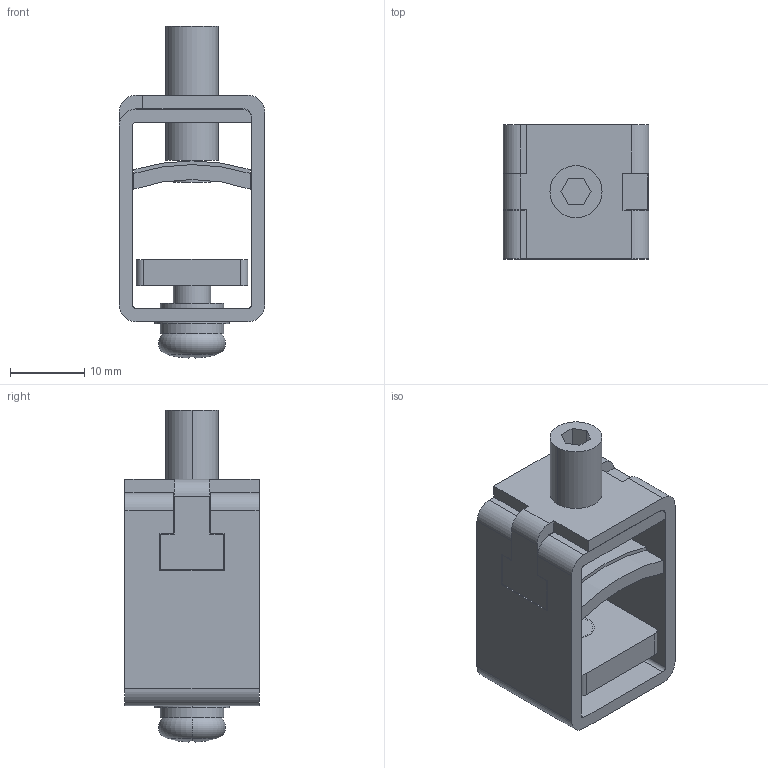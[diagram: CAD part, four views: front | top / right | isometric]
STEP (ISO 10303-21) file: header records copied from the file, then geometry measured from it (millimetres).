
FILE_DESCRIPTION((''),'2;1');
FILE_NAME('U1_CAGE_TERMINAL_ASSY_ASM','2018-06-04T',('HHI'),(''),'PRO/ENGINEER BY PARAMETRIC TECHNOLOGY CORPORATION, 2012453','PRO/ENGINEER BY PARAMETRIC TECHNOLOGY CORPORATION, 2012453','');
FILE_SCHEMA(('CONFIG_CONTROL_DESIGN'));
Length unit declared in the file: millimetre
Products named in the file (9): U1_DESIGN_CAGE_TERMINAL; U1_DESIGN_CTB_WASHER; U1_DESIGN_CTB_BOLT; U1_DESIGN_CTB_AUX_PLATE; M5_L10_PH_SCREW; D5_ASSY2_SPRING_WASHER; D5_SMALL_PLAIN_WASHER; M5_L10_P_SW_PH_SCREW_ASM; U1_CAGE_TERMINAL_ASSY_ASM
Assembly tree (8 placements, depth 3):
  U1_CAGE_TERMINAL_ASSY_ASM
    U1_DESIGN_CAGE_TERMINAL
    U1_DESIGN_CTB_WASHER
    U1_DESIGN_CTB_BOLT
    U1_DESIGN_CTB_AUX_PLATE
    M5_L10_P_SW_PH_SCREW_ASM
      M5_L10_PH_SCREW
      D5_ASSY2_SPRING_WASHER
      D5_SMALL_PLAIN_WASHER
Bounding box: 19.6 x 18 x 44.58 mm (x, y, z)
Volume: 5602.3 mm3; surface area: 6970.8 mm2
Topology: 7 solids, 7 shells, 168 faces, 441 edges, 290 vertices
Faces by surface type: plane 98, cylinder 58, torus 6, bspline 2, cone 2, sphere 2
Entity records: 5748 total; most frequent: CARTESIAN_POINT 1269, DIRECTION 929, ORIENTED_EDGE 882, EDGE_CURVE 441, AXIS2_PLACEMENT_3D 320, VERTEX_POINT 290, VECTOR 289, LINE 289
